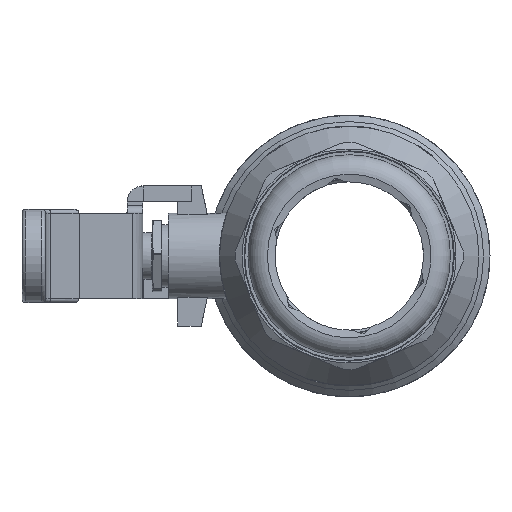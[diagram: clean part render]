
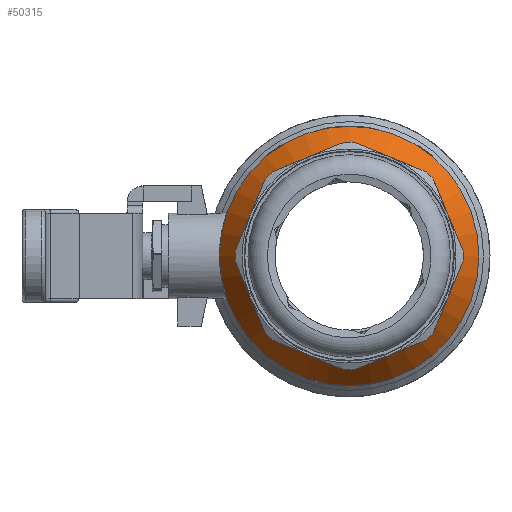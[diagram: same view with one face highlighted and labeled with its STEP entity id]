
A CAD part, left-side view. The second image highlights one B-rep face of the part: STEP entity #50315.
In plain terms, the highlighted conical face has half-angle 35 degrees and reference radius 32.695 mm.
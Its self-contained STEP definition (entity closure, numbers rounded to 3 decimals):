
#50284=CARTESIAN_POINT('',(-20.811,27.25,0.0));
#50285=VERTEX_POINT('',#50284);
#50286=CARTESIAN_POINT('',(-20.811,0.0,0.));
#50287=DIRECTION('',(1.0,0.0,0.0));
#50288=DIRECTION('',(0.0,1.0,0.0));
#50289=AXIS2_PLACEMENT_3D('',#50286,#50287,#50288);
#50290=CIRCLE('',#50289,27.25);
#50291=EDGE_CURVE('',#50285,#50285,#50290,.T.);
#50296=CARTESIAN_POINT('',(-13.035,0.,0.));
#50297=DIRECTION('',(1.0,0.,0.));
#50298=DIRECTION('',(0.0,0.0,-1.0));
#50299=AXIS2_PLACEMENT_3D('',#50296,#50297,#50298);
#50300=CONICAL_SURFACE('',#50299,32.695,35.);
#50301=ORIENTED_EDGE('',*,*,#50291,.T.);
#50302=EDGE_LOOP('',(#50301));
#50303=FACE_OUTER_BOUND('',#50302,.T.);
#50304=CARTESIAN_POINT('',(-12.171,33.3,0.0));
#50305=VERTEX_POINT('',#50304);
#50306=CARTESIAN_POINT('',(-12.171,0.,0.));
#50307=DIRECTION('',(1.0,0.0,0.0));
#50308=DIRECTION('',(0.0,1.0,0.0));
#50309=AXIS2_PLACEMENT_3D('',#50306,#50307,#50308);
#50310=CIRCLE('',#50309,33.3);
#50311=EDGE_CURVE('',#50305,#50305,#50310,.T.);
#50312=ORIENTED_EDGE('',*,*,#50311,.F.);
#50313=EDGE_LOOP('',(#50312));
#50314=FACE_BOUND('',#50313,.T.);
#50315=ADVANCED_FACE('',(#50303,#50314),#50300,.T.);
